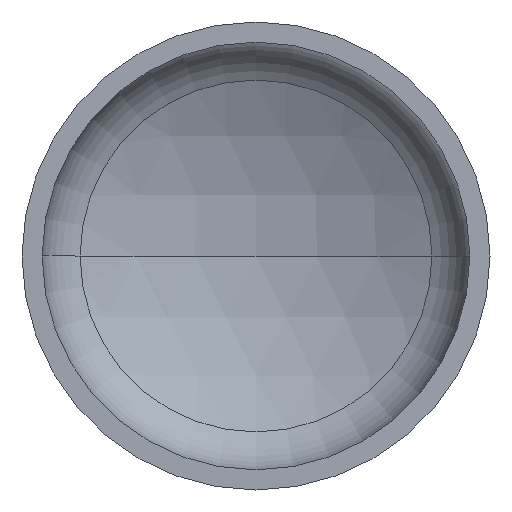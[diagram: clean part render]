
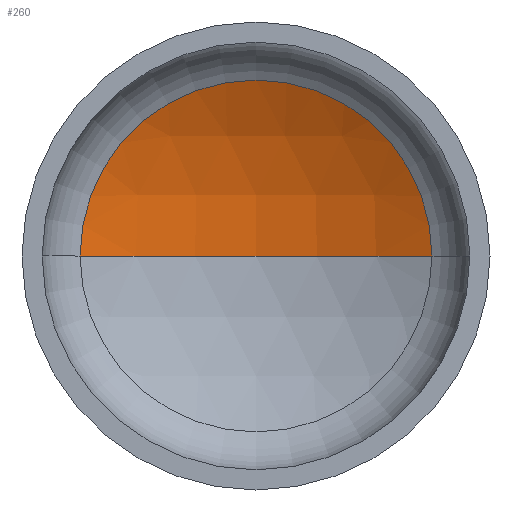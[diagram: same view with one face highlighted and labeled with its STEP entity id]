
A CAD part, front view. The second image highlights one B-rep face of the part: STEP entity #260.
In plain terms, the highlighted spherical face has radius 1520 mm.
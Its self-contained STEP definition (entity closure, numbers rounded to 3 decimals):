
#8 = EDGE_LOOP ( 'NONE', ( #43, #53, #75 ) ) ;
#24 = DIRECTION ( 'NONE',  ( 1., 0., 0. ) ) ;
#25 = DIRECTION ( 'NONE',  ( 0., 0., 1. ) ) ;
#31 = VERTEX_POINT ( 'NONE', #251 ) ;
#42 = AXIS2_PLACEMENT_3D ( 'NONE', #168, #88, #164 ) ;
#43 = ORIENTED_EDGE ( 'NONE', *, *, #173, .F. ) ;
#53 = ORIENTED_EDGE ( 'NONE', *, *, #156, .T. ) ;
#59 = AXIS2_PLACEMENT_3D ( 'NONE', #284, #281, #245 ) ;
#60 = FACE_OUTER_BOUND ( 'NONE', #8, .T. ) ;
#67 = AXIS2_PLACEMENT_3D ( 'NONE', #182, #25, #24 ) ;
#70 = AXIS2_PLACEMENT_3D ( 'NONE', #197, #207, #208 ) ;
#75 = ORIENTED_EDGE ( 'NONE', *, *, #145, .T. ) ;
#88 = DIRECTION ( 'NONE',  ( 0., 0., -1. ) ) ;
#100 = VERTEX_POINT ( 'NONE', #242 ) ;
#128 = CIRCLE ( 'NONE', #67, 1520. ) ;
#145 = EDGE_CURVE ( 'NONE', #31, #100, #328, .T. ) ;
#156 = EDGE_CURVE ( 'NONE', #160, #31, #266, .T. ) ;
#160 = VERTEX_POINT ( 'NONE', #219 ) ;
#164 = DIRECTION ( 'NONE',  ( -1., 0., 0. ) ) ;
#168 = CARTESIAN_POINT ( 'NONE',  ( 0., -985.733, 0. ) ) ;
#173 = EDGE_CURVE ( 'NONE', #160, #100, #128, .T. ) ;
#182 = CARTESIAN_POINT ( 'NONE',  ( 0., -985.733, 0. ) ) ;
#197 = CARTESIAN_POINT ( 'NONE',  ( 0., 355.986, 0. ) ) ;
#207 = DIRECTION ( 'NONE',  ( 0., -1., 0. ) ) ;
#208 = DIRECTION ( 'NONE',  ( 1., 0., 0. ) ) ;
#219 = CARTESIAN_POINT ( 'NONE',  ( 0., 534.267, 0. ) ) ;
#242 = CARTESIAN_POINT ( 'NONE',  ( -714.276, 355.986, 0. ) ) ;
#245 = DIRECTION ( 'NONE',  ( -1., 0., 0. ) ) ;
#251 = CARTESIAN_POINT ( 'NONE',  ( 714.276, 355.986, 0. ) ) ;
#260 = ADVANCED_FACE ( 'NONE', ( #60 ), #313, .F. ) ;
#266 = CIRCLE ( 'NONE', #59, 1520. ) ;
#281 = DIRECTION ( 'NONE',  ( 0., 0., -1. ) ) ;
#284 = CARTESIAN_POINT ( 'NONE',  ( 0., -985.733, 0. ) ) ;
#313 = SPHERICAL_SURFACE ( 'NONE', #42, 1520. ) ;
#328 = CIRCLE ( 'NONE', #70, 714.276 ) ;
